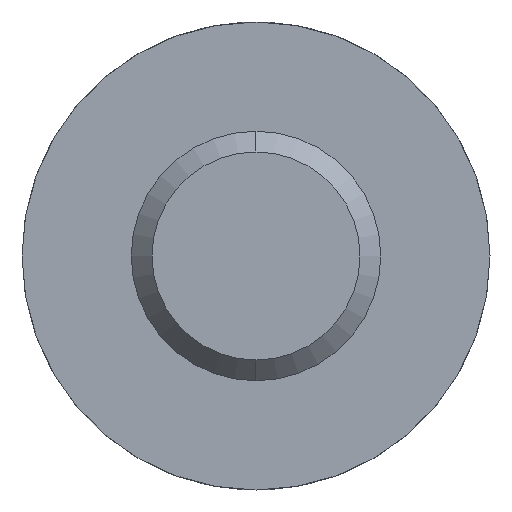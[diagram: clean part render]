
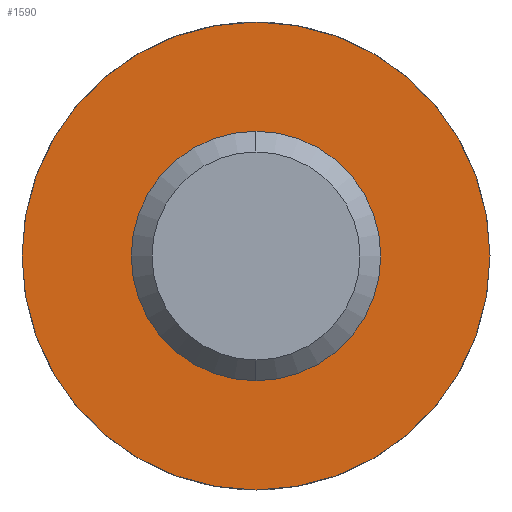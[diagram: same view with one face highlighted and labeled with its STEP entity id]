
A CAD part, left-side view. The second image highlights one B-rep face of the part: STEP entity #1590.
In plain terms, the highlighted planar face has unit normal (-1, 0, 0).
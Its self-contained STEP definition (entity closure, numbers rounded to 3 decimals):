
#19 = AXIS2_PLACEMENT_3D ( 'NONE', #111, #401, #2320 ) ;
#109 = CIRCLE ( 'NONE', #679, 2.7 ) ;
#111 = CARTESIAN_POINT ( 'NONE',  ( 0., 1.2, 0. ) ) ;
#169 = CIRCLE ( 'NONE', #1150, 1.2 ) ;
#203 = ORIENTED_EDGE ( 'NONE', *, *, #245, .F. ) ;
#245 = EDGE_CURVE ( 'NONE', #1071, #2430, #109, .T. ) ;
#401 = DIRECTION ( 'NONE',  ( -1., 0., 0. ) ) ;
#437 = CARTESIAN_POINT ( 'NONE',  ( 0., 0., 0. ) ) ;
#609 = EDGE_CURVE ( 'NONE', #2430, #1071, #3098, .T. ) ;
#679 = AXIS2_PLACEMENT_3D ( 'NONE', #2999, #1258, #1817 ) ;
#684 = VERTEX_POINT ( 'NONE', #2636 ) ;
#719 = DIRECTION ( 'NONE',  ( 0., 0., -1. ) ) ;
#832 = DIRECTION ( 'NONE',  ( 1., 0., 0. ) ) ;
#919 = AXIS2_PLACEMENT_3D ( 'NONE', #437, #2362, #719 ) ;
#1006 = DIRECTION ( 'NONE',  ( 0., 0., -1. ) ) ;
#1071 = VERTEX_POINT ( 'NONE', #2507 ) ;
#1084 = EDGE_CURVE ( 'NONE', #3033, #684, #169, .T. ) ;
#1105 = ORIENTED_EDGE ( 'NONE', *, *, #1084, .T. ) ;
#1150 = AXIS2_PLACEMENT_3D ( 'NONE', #2471, #832, #2738 ) ;
#1258 = DIRECTION ( 'NONE',  ( 1., 0., 0. ) ) ;
#1590 = ADVANCED_FACE ( 'NONE', ( #1615, #2429 ), #2040, .T. ) ;
#1601 = CARTESIAN_POINT ( 'NONE',  ( 0., 0., -2.7 ) ) ;
#1615 = FACE_BOUND ( 'NONE', #3101, .T. ) ;
#1817 = DIRECTION ( 'NONE',  ( 0., 0., -1. ) ) ;
#1998 = CARTESIAN_POINT ( 'NONE',  ( 0., 0., -1.2 ) ) ;
#2040 = PLANE ( 'NONE',  #19 ) ;
#2098 = CARTESIAN_POINT ( 'NONE',  ( 0., 0., 0. ) ) ;
#2320 = DIRECTION ( 'NONE',  ( 0., 0., 1. ) ) ;
#2362 = DIRECTION ( 'NONE',  ( 1., 0., 0. ) ) ;
#2372 = EDGE_LOOP ( 'NONE', ( #3330, #203 ) ) ;
#2376 = DIRECTION ( 'NONE',  ( 1., 0., 0. ) ) ;
#2429 = FACE_OUTER_BOUND ( 'NONE', #2372, .T. ) ;
#2430 = VERTEX_POINT ( 'NONE', #1601 ) ;
#2471 = CARTESIAN_POINT ( 'NONE',  ( 0., 0., 0. ) ) ;
#2507 = CARTESIAN_POINT ( 'NONE',  ( 0., 0., 2.7 ) ) ;
#2519 = ORIENTED_EDGE ( 'NONE', *, *, #3515, .T. ) ;
#2622 = CIRCLE ( 'NONE', #919, 1.2 ) ;
#2636 = CARTESIAN_POINT ( 'NONE',  ( 0., 0., 1.2 ) ) ;
#2738 = DIRECTION ( 'NONE',  ( 0., 0., -1. ) ) ;
#2999 = CARTESIAN_POINT ( 'NONE',  ( 0., 0., 0. ) ) ;
#3033 = VERTEX_POINT ( 'NONE', #1998 ) ;
#3052 = AXIS2_PLACEMENT_3D ( 'NONE', #2098, #2376, #1006 ) ;
#3098 = CIRCLE ( 'NONE', #3052, 2.7 ) ;
#3101 = EDGE_LOOP ( 'NONE', ( #1105, #2519 ) ) ;
#3330 = ORIENTED_EDGE ( 'NONE', *, *, #609, .F. ) ;
#3515 = EDGE_CURVE ( 'NONE', #684, #3033, #2622, .T. ) ;
